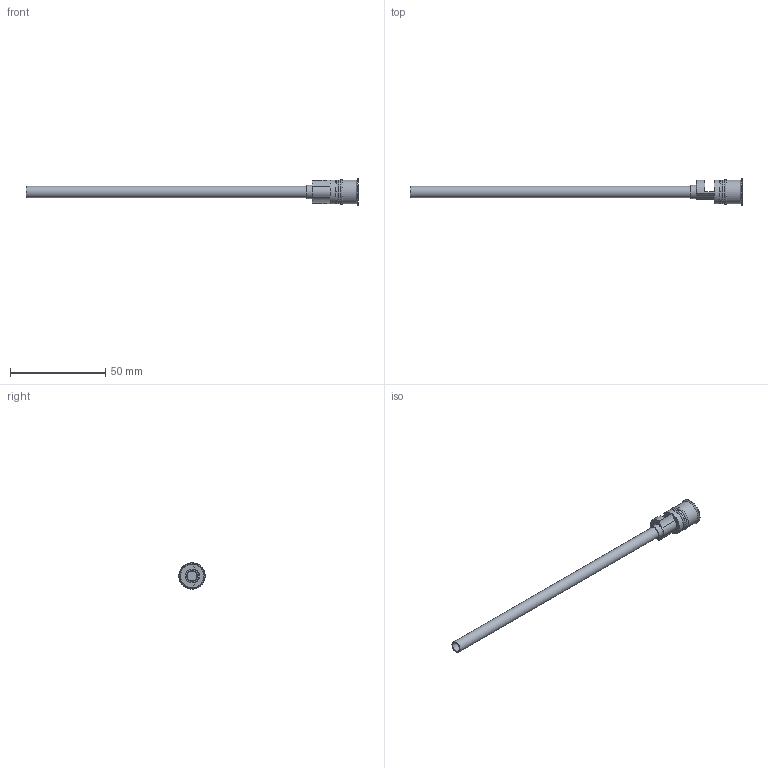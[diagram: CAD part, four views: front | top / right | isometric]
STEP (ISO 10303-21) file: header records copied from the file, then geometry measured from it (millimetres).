
FILE_DESCRIPTION( ( 'STEP AP214' ), '1' );
FILE_NAME( 'p:/temp/worker_226/temp/exporttempdir_6032_790_0K8Os/format_0/RF-12x150.stp', '2021-02-05T19:33:51', ( 'License CC BY-ND 4.0' ), ( 'CADENAS' ), ' ', 'PARTsolutions', ' ' );
FILE_SCHEMA( ( 'AUTOMOTIVE_DESIGN { 1 0 10303 214 1 1 1 1 }' ) );
Length unit declared in the file: millimetre
Products named in the file (1): _RF-12x150
Bounding box: 174 x 13.8 x 13.8 mm (x, y, z)
Volume: 3403.1 mm3; surface area: 6827.5 mm2
Topology: 1 solids, 1 shells, 46 faces, 111 edges, 71 vertices
Faces by surface type: plane 26, cylinder 13, cone 5, torus 2
Full cylindrical faces by diameter (mm): 5 x1, 6 x2, 7 x1, 12.5 x3, 13.8 x1
Entity records: 1649 total; most frequent: CARTESIAN_POINT 235, DIRECTION 217, ORIENTED_EDGE 188, EDGE_CURVE 94, AXIS2_PLACEMENT_3D 82, VERTEX_POINT 70, EDGE_LOOP 66, FACE_OUTER_BOUND 56
